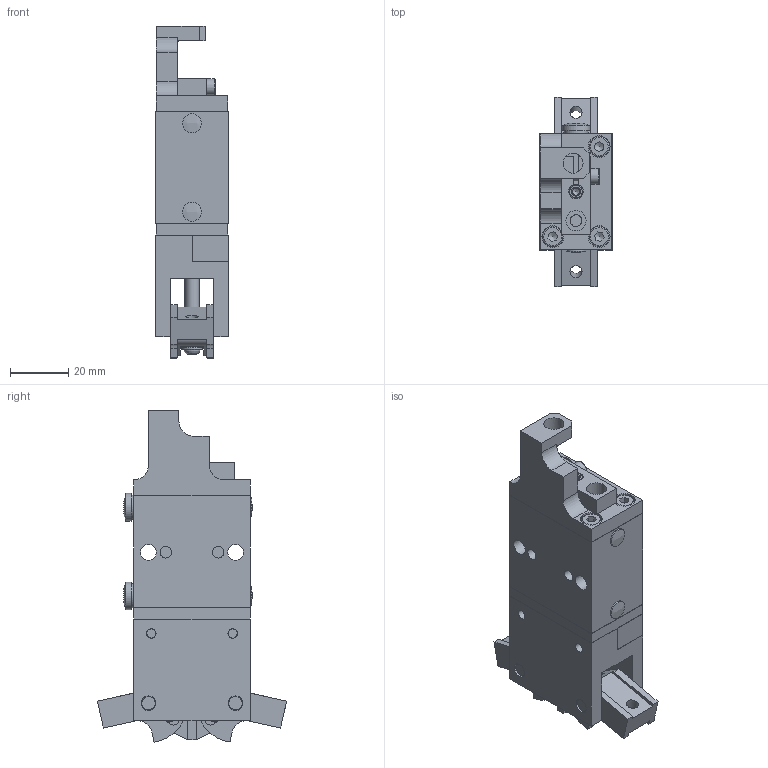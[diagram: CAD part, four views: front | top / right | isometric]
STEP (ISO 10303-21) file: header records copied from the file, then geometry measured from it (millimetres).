
FILE_DESCRIPTION(/* description */ (''),/* implementation_level */ '2;1');
FILE_NAME(/* name */ 'C:\Step_import\elemente\3000012_2.stp',/* time_stamp */ '2024-03-18T13:39:32+01:00',/* author */ ('ul'),/* organization */ (''),/* preprocessor_version */ 'ST-DEVELOPER v17',/* originating_system */ 'Autodesk Inventor 2018',/* authorisation */ '');
FILE_SCHEMA (('AUTOMOTIVE_DESIGN { 1 0 10303 214 3 1 1 }'));
Length unit declared in the file: millimetre
Products named in the file (1): 3000012_2
Bounding box: 25 x 65.14 x 114.36 mm (x, y, z)
Volume: 75206.4 mm3; surface area: 50110.4 mm2
Topology: 43 solids, 43 shells, 628 faces, 1654 edges, 1143 vertices
Faces by surface type: plane 331, cylinder 179, cone 84, torus 28, sphere 4, bspline 2
Full cylindrical faces by diameter (mm): 1.2 x4, 2.459 x5, 3 x5, 3.242 x10, 3.5 x4, 4 x19, 4.1 x2, 4.134 x6, 4.3 x4, 4.4 x2, 4.5 x5, 5 x19, 5.2 x1, 5.4 x2, 5.5 x3, 6 x1, 6.5 x2, 6.917 x2, 7 x6, 7.2 x2, 7.5 x3, 8 x5, 8.3 x6, 9 x5, 9.5 x2, 14 x1, 14.9 x1, 15 x3, 17.5 x2, 20 x5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
Entity records: 22165 total; most frequent: CARTESIAN_POINT 5208, DIRECTION 3510, ORIENTED_EDGE 3262, EDGE_CURVE 1631, AXIS2_PLACEMENT_3D 1357, VERTEX_POINT 1143, LINE 796, VECTOR 796
